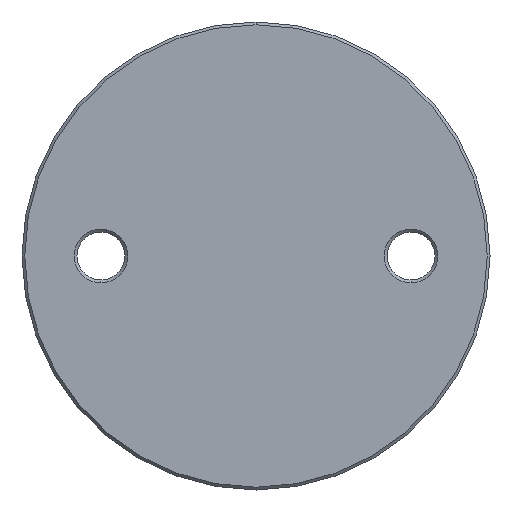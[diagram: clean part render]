
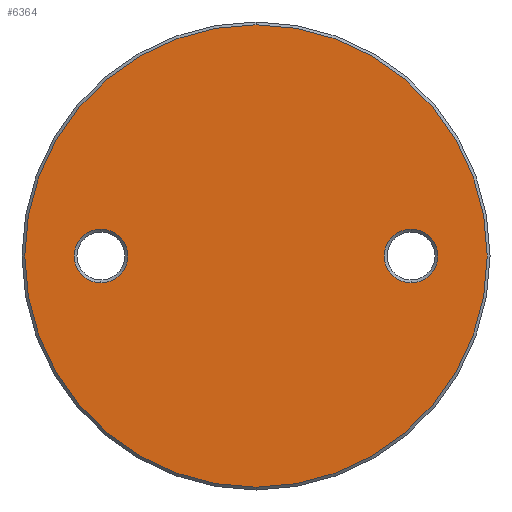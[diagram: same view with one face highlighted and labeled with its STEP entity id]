
A CAD part, front view. The second image highlights one B-rep face of the part: STEP entity #6364.
In plain terms, the highlighted planar face has unit normal (0, -1, 0).
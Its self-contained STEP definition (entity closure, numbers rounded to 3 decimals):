
#271 = DIRECTION ( 'NONE',  ( 0., 0., -1. ) ) ;
#467 = DIRECTION ( 'NONE',  ( 0., 0., -1. ) ) ;
#488 = DIRECTION ( 'NONE',  ( 0., 0., -1. ) ) ;
#513 = VERTEX_POINT ( 'NONE', #6182 ) ;
#514 = CARTESIAN_POINT ( 'NONE',  ( -27.5, -3., 0. ) ) ;
#551 = AXIS2_PLACEMENT_3D ( 'NONE', #4749, #4193, #488 ) ;
#807 = CARTESIAN_POINT ( 'NONE',  ( 27.5, -3., 4.75 ) ) ;
#836 = ORIENTED_EDGE ( 'NONE', *, *, #4060, .T. ) ;
#878 = CARTESIAN_POINT ( 'NONE',  ( -27.5, -3., -4.75 ) ) ;
#899 = CIRCLE ( 'NONE', #1636, 4.75 ) ;
#1018 = ORIENTED_EDGE ( 'NONE', *, *, #4253, .T. ) ;
#1101 = CARTESIAN_POINT ( 'NONE',  ( 27.5, -3., -4.75 ) ) ;
#1125 = CIRCLE ( 'NONE', #6189, 41. ) ;
#1127 = AXIS2_PLACEMENT_3D ( 'NONE', #1350, #6601, #3411 ) ;
#1153 = CIRCLE ( 'NONE', #3854, 4.75 ) ;
#1279 = DIRECTION ( 'NONE',  ( 0., 1., 0. ) ) ;
#1350 = CARTESIAN_POINT ( 'NONE',  ( 0., -3., 0. ) ) ;
#1619 = CIRCLE ( 'NONE', #1127, 41. ) ;
#1629 = AXIS2_PLACEMENT_3D ( 'NONE', #5023, #1279, #5048 ) ;
#1636 = AXIS2_PLACEMENT_3D ( 'NONE', #6915, #2649, #467 ) ;
#1741 = FACE_BOUND ( 'NONE', #5806, .T. ) ;
#2091 = ORIENTED_EDGE ( 'NONE', *, *, #4288, .T. ) ;
#2115 = DIRECTION ( 'NONE',  ( 0., 1., 0. ) ) ;
#2419 = DIRECTION ( 'NONE',  ( 0., 1., 0. ) ) ;
#2649 = DIRECTION ( 'NONE',  ( 0., 1., 0. ) ) ;
#2740 = EDGE_CURVE ( 'NONE', #3712, #3442, #1125, .T. ) ;
#2803 = VERTEX_POINT ( 'NONE', #878 ) ;
#3008 = DIRECTION ( 'NONE',  ( 0., -1., 0. ) ) ;
#3122 = ORIENTED_EDGE ( 'NONE', *, *, #6393, .T. ) ;
#3318 = CIRCLE ( 'NONE', #3710, 4.75 ) ;
#3405 = DIRECTION ( 'NONE',  ( 0., 0., -1. ) ) ;
#3411 = DIRECTION ( 'NONE',  ( 0., 0., -1. ) ) ;
#3440 = CARTESIAN_POINT ( 'NONE',  ( -27.5, -3., 0. ) ) ;
#3442 = VERTEX_POINT ( 'NONE', #6410 ) ;
#3710 = AXIS2_PLACEMENT_3D ( 'NONE', #514, #2115, #4306 ) ;
#3712 = VERTEX_POINT ( 'NONE', #6893 ) ;
#3854 = AXIS2_PLACEMENT_3D ( 'NONE', #3440, #2419, #3405 ) ;
#4060 = EDGE_CURVE ( 'NONE', #2803, #513, #3318, .T. ) ;
#4193 = DIRECTION ( 'NONE',  ( 0., -1., 0. ) ) ;
#4253 = EDGE_CURVE ( 'NONE', #6555, #6694, #5897, .T. ) ;
#4288 = EDGE_CURVE ( 'NONE', #3442, #3712, #1619, .T. ) ;
#4306 = DIRECTION ( 'NONE',  ( 0., 0., -1. ) ) ;
#4644 = ORIENTED_EDGE ( 'NONE', *, *, #2740, .T. ) ;
#4749 = CARTESIAN_POINT ( 'NONE',  ( 0., -3., 41.5 ) ) ;
#4990 = EDGE_LOOP ( 'NONE', ( #836, #6208 ) ) ;
#5023 = CARTESIAN_POINT ( 'NONE',  ( 27.5, -3., 0. ) ) ;
#5048 = DIRECTION ( 'NONE',  ( 0., 0., -1. ) ) ;
#5280 = PLANE ( 'NONE',  #551 ) ;
#5806 = EDGE_LOOP ( 'NONE', ( #1018, #3122 ) ) ;
#5897 = CIRCLE ( 'NONE', #1629, 4.75 ) ;
#6119 = EDGE_CURVE ( 'NONE', #513, #2803, #1153, .T. ) ;
#6182 = CARTESIAN_POINT ( 'NONE',  ( -27.5, -3., 4.75 ) ) ;
#6189 = AXIS2_PLACEMENT_3D ( 'NONE', #6201, #3008, #271 ) ;
#6201 = CARTESIAN_POINT ( 'NONE',  ( 0., -3., 0. ) ) ;
#6208 = ORIENTED_EDGE ( 'NONE', *, *, #6119, .T. ) ;
#6364 = ADVANCED_FACE ( 'NONE', ( #1741, #6704, #6963 ), #5280, .T. ) ;
#6393 = EDGE_CURVE ( 'NONE', #6694, #6555, #899, .T. ) ;
#6410 = CARTESIAN_POINT ( 'NONE',  ( 0., -3., -41. ) ) ;
#6555 = VERTEX_POINT ( 'NONE', #1101 ) ;
#6601 = DIRECTION ( 'NONE',  ( 0., -1., 0. ) ) ;
#6694 = VERTEX_POINT ( 'NONE', #807 ) ;
#6704 = FACE_BOUND ( 'NONE', #4990, .T. ) ;
#6823 = EDGE_LOOP ( 'NONE', ( #4644, #2091 ) ) ;
#6893 = CARTESIAN_POINT ( 'NONE',  ( 0., -3., 41. ) ) ;
#6915 = CARTESIAN_POINT ( 'NONE',  ( 27.5, -3., 0. ) ) ;
#6963 = FACE_OUTER_BOUND ( 'NONE', #6823, .T. ) ;
